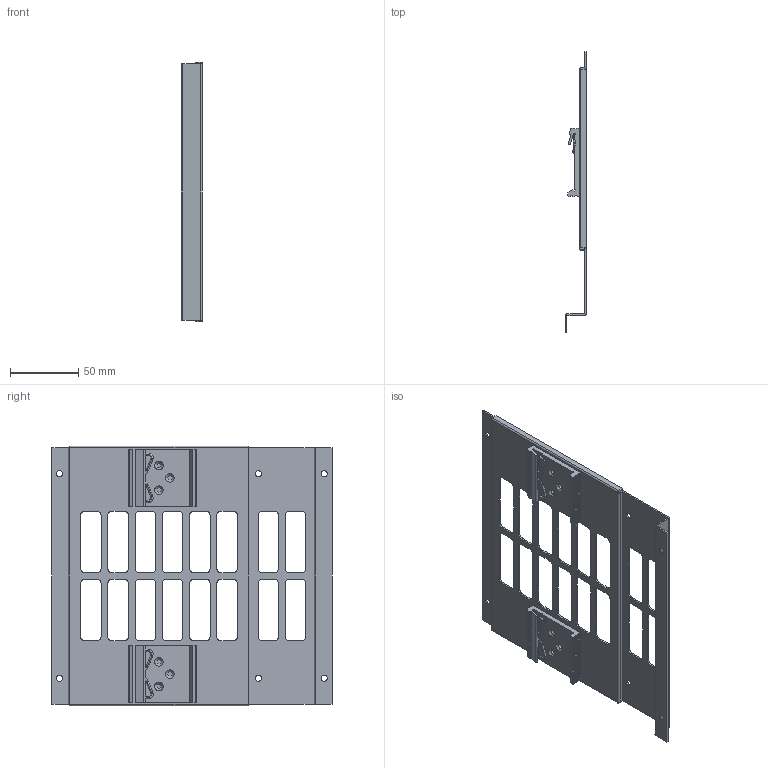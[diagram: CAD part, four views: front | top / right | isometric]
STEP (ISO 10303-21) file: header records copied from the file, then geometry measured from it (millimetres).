
FILE_DESCRIPTION (( 'STEP AP214' ), '1' );
FILE_NAME ('98R17500210.STEP', '2022-03-08T12:24:35', ( '' ), ( '' ), 'SwSTEP 2.0', 'SolidWorks 2021', '' );
FILE_SCHEMA (( 'AUTOMOTIVE_DESIGN' ));
Length unit declared in the file: millimetre
Products named in the file (3): MIC_770_DIN-Rail; 98R17500210; DIN_RAIL
Assembly tree (3 placements, depth 2):
  98R17500210
    MIC_770_DIN-Rail
    DIN_RAIL  x2
Bounding box: 15.72 x 205.5 x 190.8 mm (x, y, z)
Volume: 57714.3 mm3; surface area: 83197.3 mm2
Topology: 7 solids, 7 shells, 350 faces, 984 edges, 648 vertices
Faces by surface type: plane 176, cylinder 130, torus 32, cone 12
Entity records: 9721 total; most frequent: DIRECTION 1562, CARTESIAN_POINT 1528, ORIENTED_EDGE 1512, EDGE_CURVE 756, AXIS2_PLACEMENT_3D 534, VERTEX_POINT 500, LINE 494, VECTOR 494
